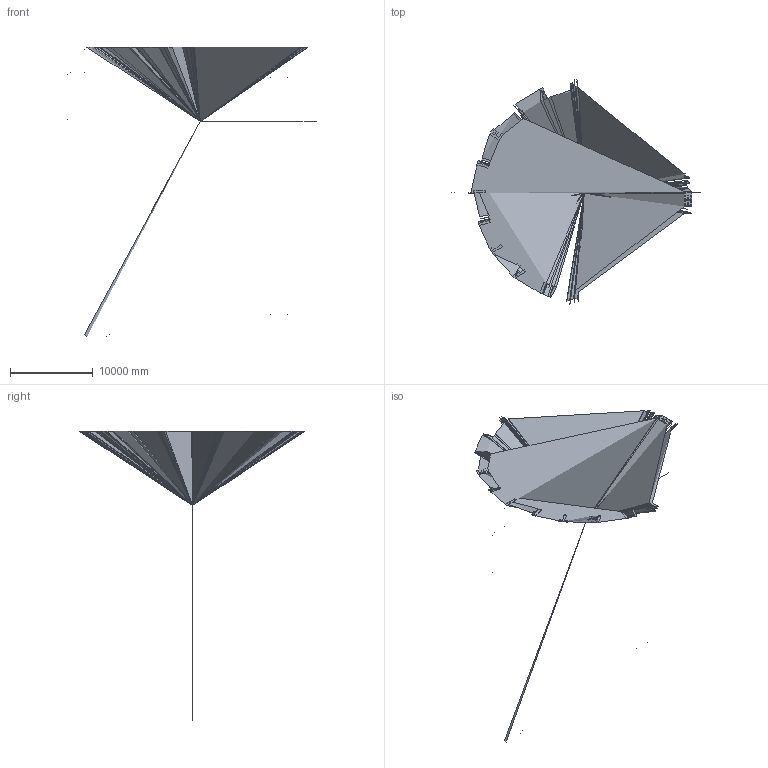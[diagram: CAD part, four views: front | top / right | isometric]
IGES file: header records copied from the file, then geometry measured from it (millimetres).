
Start section: C
Global section: file name: BEE1635.igs; native system: By Siemens PLM Incorporated; preprocessor: XPlus GENERIC/IGES 18.0.17; author: Author; organization: Title; date: 20240807.091441; units: millimetre
Bounding box: 30000 x 27119.84 x 35000 mm (x, y, z)
Volume: 261.5 mm3; surface area: 9795.8 mm2
Topology: 1 solids, 6 shells, 262 faces, 687 edges, 459 vertices
Faces by surface type: bspline 262
